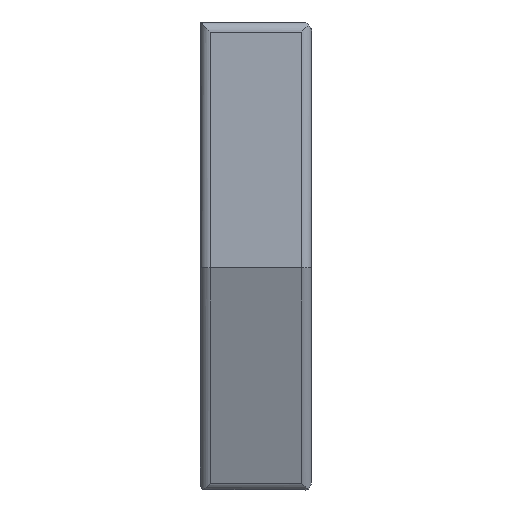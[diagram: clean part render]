
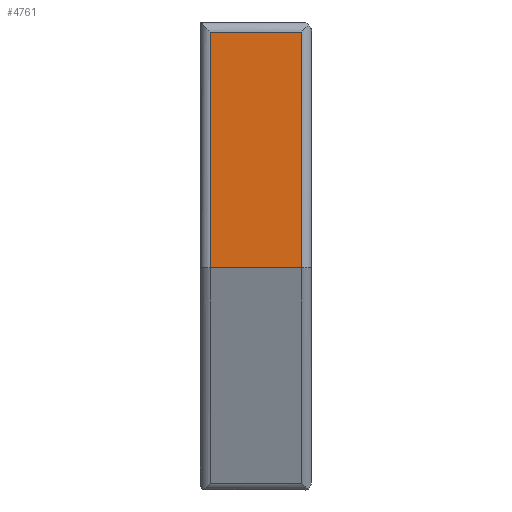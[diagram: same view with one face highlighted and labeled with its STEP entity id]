
A CAD part, front view. The second image highlights one B-rep face of the part: STEP entity #4761.
In plain terms, the highlighted planar face has unit normal (0, -1, 0).
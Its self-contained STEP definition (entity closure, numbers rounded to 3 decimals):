
#365=LINE('',#8116,#707);
#417=LINE('',#8476,#759);
#428=LINE('',#8504,#770);
#492=LINE('',#9201,#834);
#707=VECTOR('',#6271,1000.);
#759=VECTOR('',#6483,1000.);
#770=VECTOR('',#6518,1000.);
#834=VECTOR('',#6788,1000.);
#1293=FACE_OUTER_BOUND('',#1588,.T.);
#1588=EDGE_LOOP('',(#4145,#4146,#4147,#4148));
#2176=VERTEX_POINT('',#8110);
#2178=VERTEX_POINT('',#8114);
#2247=VERTEX_POINT('',#8456);
#2254=VERTEX_POINT('',#8474);
#2751=EDGE_CURVE('',#2178,#2176,#365,.T.);
#2868=EDGE_CURVE('',#2254,#2247,#417,.T.);
#2884=EDGE_CURVE('',#2176,#2254,#428,.T.);
#3003=EDGE_CURVE('',#2247,#2178,#492,.T.);
#4145=ORIENTED_EDGE('',*,*,#2884,.F.);
#4146=ORIENTED_EDGE('',*,*,#2751,.F.);
#4147=ORIENTED_EDGE('',*,*,#3003,.F.);
#4148=ORIENTED_EDGE('',*,*,#2868,.F.);
#4504=PLANE('',#5349);
#4761=ADVANCED_FACE('',(#1293),#4504,.F.);
#5349=AXIS2_PLACEMENT_3D('',#9200,#6786,#6787);
#6271=DIRECTION('',(0.,0.,1.));
#6483=DIRECTION('',(0.,0.,-1.));
#6518=DIRECTION('',(1.,0.,0.));
#6786=DIRECTION('center_axis',(0.,1.,0.));
#6787=DIRECTION('ref_axis',(0.,0.,1.));
#6788=DIRECTION('',(-1.,0.,0.));
#8110=CARTESIAN_POINT('',(18.521,-93.219,-4.5));
#8114=CARTESIAN_POINT('',(18.521,-93.219,-39.448));
#8116=CARTESIAN_POINT('',(18.521,-93.219,-22.06));
#8456=CARTESIAN_POINT('',(32.021,-93.219,-39.448));
#8474=CARTESIAN_POINT('',(32.021,-93.219,-4.5));
#8476=CARTESIAN_POINT('',(32.021,-93.219,-18.837));
#8504=CARTESIAN_POINT('',(24.346,-93.219,-4.5));
#9200=CARTESIAN_POINT('Origin',(24.521,-93.219,-23.864));
#9201=CARTESIAN_POINT('',(27.374,-93.219,-39.448));
